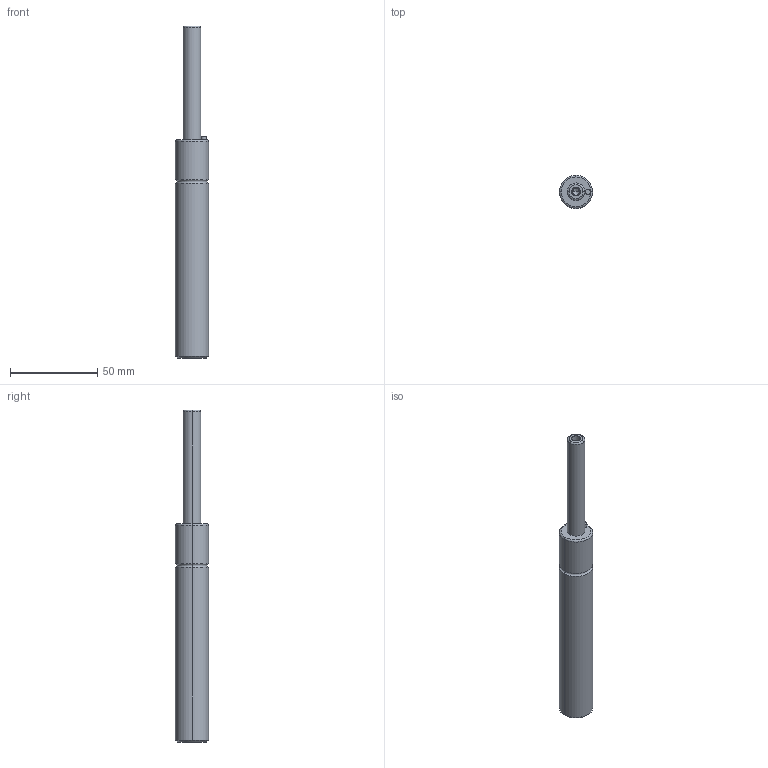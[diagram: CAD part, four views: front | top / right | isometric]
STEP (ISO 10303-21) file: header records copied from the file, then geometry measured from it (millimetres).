
FILE_DESCRIPTION(/* description */ (''),/* implementation_level */ '2;1');
FILE_NAME(/* name */ '3d_gsm19-63_03940_r00.stp',/* time_stamp */ '2011-01-10T14:15:17+09:00',/* author */ ('MISUMI'),/* organization */ (''),/* preprocessor_version */ 'ST-DEVELOPER v11',/* originating_system */ 'UGS - NX 5.0',/* authorisation */ '');
FILE_SCHEMA (('CONFIG_CONTROL_DESIGN'));
Length unit declared in the file: millimetre
Products named in the file (1): 3d_gsm19-63_03940_r00
Bounding box: 19 x 19 x 190 mm (x, y, z)
Volume: 39982.6 mm3; surface area: 10387.2 mm2
Topology: 1 solids, 1 shells, 34 faces, 70 edges, 40 vertices
Faces by surface type: cylinder 16, cone 6, plane 6, torus 6
Entity records: 964 total; most frequent: DIRECTION 180, CARTESIAN_POINT 141, ORIENTED_EDGE 132, AXIS2_PLACEMENT_3D 79, EDGE_CURVE 66, CIRCLE 44, EDGE_LOOP 40, VERTEX_POINT 40
